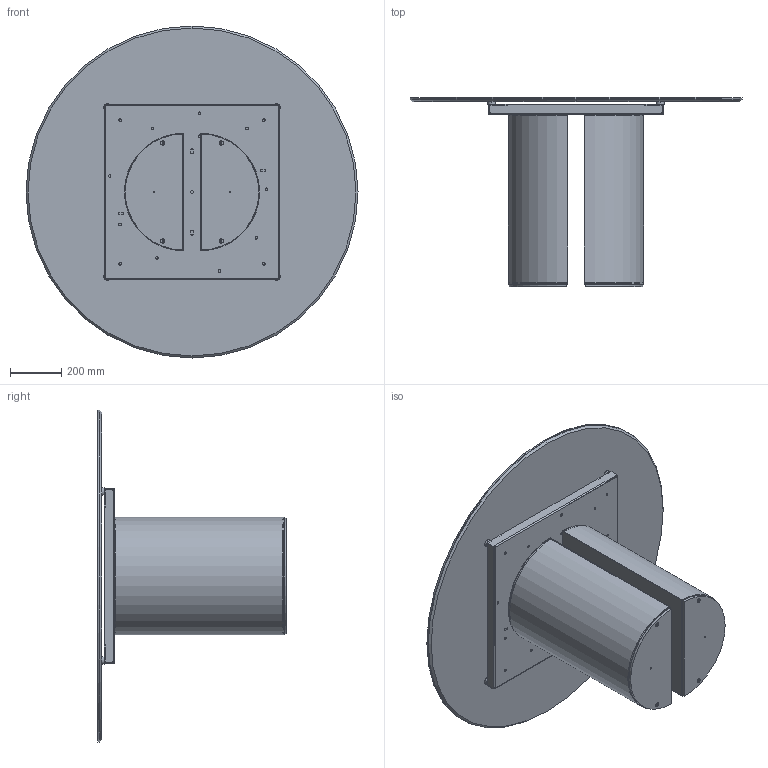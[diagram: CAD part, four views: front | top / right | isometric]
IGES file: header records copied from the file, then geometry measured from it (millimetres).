
Start section: SolidWorks IGES file using analytic representation for surfaces
Global section: file name: Y:\eforma\TECNICO\SOLIDWORKS\E-FORMA\1-TAVOLI\DORA\02 parts\DR05C.IGS; native system: SolidWorks 2022; preprocessor: SolidWorks 2022; author: eforma.tech; date: 240806.145745; units: millimetre
Bounding box: 1300 x 740 x 1300 mm (x, y, z)
Volume: 28972453.6 mm3; surface area: 10408031.3 mm2
Topology: 29 solids, 29 shells, 712 faces, 1788 edges, 1130 vertices
Faces by surface type: plane 360, revolution 352
